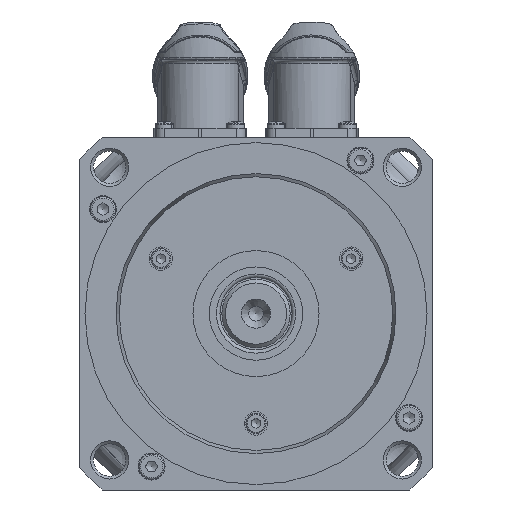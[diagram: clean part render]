
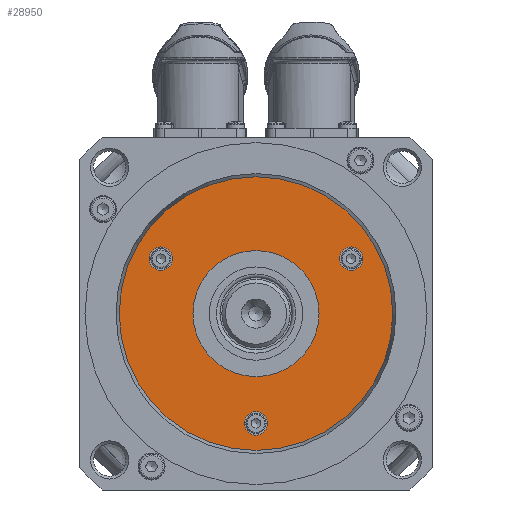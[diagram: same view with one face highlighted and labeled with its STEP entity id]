
A CAD part, left-side view. The second image highlights one B-rep face of the part: STEP entity #28950.
In plain terms, the highlighted planar face has unit normal (-1, 0, 0).
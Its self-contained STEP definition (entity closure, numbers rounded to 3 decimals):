
#1421=FACE_BOUND('',#3986,.T.);
#1422=FACE_BOUND('',#3987,.T.);
#1423=FACE_BOUND('',#3988,.T.);
#1424=FACE_BOUND('',#3989,.T.);
#1674=PLANE('',#31128);
#2260=FACE_OUTER_BOUND('',#3985,.T.);
#3985=EDGE_LOOP('',(#18845,#18846));
#3986=EDGE_LOOP('',(#18847,#18848));
#3987=EDGE_LOOP('',(#18849,#18850));
#3988=EDGE_LOOP('',(#18851,#18852));
#3989=EDGE_LOOP('',(#18853,#18854));
#6023=CIRCLE('',#31058,3.25);
#6024=CIRCLE('',#31059,3.25);
#6028=CIRCLE('',#31066,3.25);
#6029=CIRCLE('',#31067,3.25);
#6033=CIRCLE('',#31074,3.25);
#6034=CIRCLE('',#31075,3.25);
#6059=CIRCLE('',#31129,38.);
#6060=CIRCLE('',#31130,38.);
#6061=CIRCLE('',#31131,17.5);
#6062=CIRCLE('',#31132,17.5);
#10914=VERTEX_POINT('',#43839);
#10915=VERTEX_POINT('',#43840);
#10919=VERTEX_POINT('',#43854);
#10920=VERTEX_POINT('',#43855);
#10924=VERTEX_POINT('',#43869);
#10925=VERTEX_POINT('',#43870);
#10950=VERTEX_POINT('',#43975);
#10951=VERTEX_POINT('',#43976);
#10952=VERTEX_POINT('',#43979);
#10953=VERTEX_POINT('',#43980);
#13866=EDGE_CURVE('',#10914,#10915,#6023,.T.);
#13867=EDGE_CURVE('',#10915,#10914,#6024,.T.);
#13873=EDGE_CURVE('',#10919,#10920,#6028,.T.);
#13874=EDGE_CURVE('',#10920,#10919,#6029,.T.);
#13880=EDGE_CURVE('',#10924,#10925,#6033,.T.);
#13881=EDGE_CURVE('',#10925,#10924,#6034,.T.);
#13931=EDGE_CURVE('',#10950,#10951,#6059,.T.);
#13932=EDGE_CURVE('',#10951,#10950,#6060,.T.);
#13933=EDGE_CURVE('',#10952,#10953,#6061,.T.);
#13934=EDGE_CURVE('',#10953,#10952,#6062,.T.);
#18845=ORIENTED_EDGE('',*,*,#13931,.F.);
#18846=ORIENTED_EDGE('',*,*,#13932,.F.);
#18847=ORIENTED_EDGE('',*,*,#13866,.T.);
#18848=ORIENTED_EDGE('',*,*,#13867,.T.);
#18849=ORIENTED_EDGE('',*,*,#13873,.T.);
#18850=ORIENTED_EDGE('',*,*,#13874,.T.);
#18851=ORIENTED_EDGE('',*,*,#13880,.T.);
#18852=ORIENTED_EDGE('',*,*,#13881,.T.);
#18853=ORIENTED_EDGE('',*,*,#13933,.T.);
#18854=ORIENTED_EDGE('',*,*,#13934,.T.);
#28950=ADVANCED_FACE('',(#2260,#1421,#1422,#1423,#1424),#1674,.T.);
#31058=AXIS2_PLACEMENT_3D('',#43841,#35226,#35227);
#31059=AXIS2_PLACEMENT_3D('',#43842,#35228,#35229);
#31066=AXIS2_PLACEMENT_3D('',#43856,#35244,#35245);
#31067=AXIS2_PLACEMENT_3D('',#43857,#35246,#35247);
#31074=AXIS2_PLACEMENT_3D('',#43871,#35262,#35263);
#31075=AXIS2_PLACEMENT_3D('',#43872,#35264,#35265);
#31128=AXIS2_PLACEMENT_3D('',#43974,#35395,#35396);
#31129=AXIS2_PLACEMENT_3D('',#43977,#35397,#35398);
#31130=AXIS2_PLACEMENT_3D('',#43978,#35399,#35400);
#31131=AXIS2_PLACEMENT_3D('',#43981,#35401,#35402);
#31132=AXIS2_PLACEMENT_3D('',#43982,#35403,#35404);
#35226=DIRECTION('center_axis',(1.,0.,0.));
#35227=DIRECTION('ref_axis',(0.,0.5,0.866));
#35228=DIRECTION('center_axis',(1.,0.,0.));
#35229=DIRECTION('ref_axis',(0.,0.5,0.866));
#35244=DIRECTION('center_axis',(1.,0.,0.));
#35245=DIRECTION('ref_axis',(0.,0.5,-0.866));
#35246=DIRECTION('center_axis',(1.,0.,0.));
#35247=DIRECTION('ref_axis',(0.,0.5,-0.866));
#35262=DIRECTION('center_axis',(1.,0.,0.));
#35263=DIRECTION('ref_axis',(0.,-1.,0.));
#35264=DIRECTION('center_axis',(1.,0.,0.));
#35265=DIRECTION('ref_axis',(0.,-1.,0.));
#35395=DIRECTION('center_axis',(-1.,0.,0.));
#35396=DIRECTION('ref_axis',(0.,-1.,0.));
#35397=DIRECTION('center_axis',(1.,0.,0.));
#35398=DIRECTION('ref_axis',(0.,1.,0.));
#35399=DIRECTION('center_axis',(1.,0.,0.));
#35400=DIRECTION('ref_axis',(0.,1.,0.));
#35401=DIRECTION('center_axis',(1.,0.,0.));
#35402=DIRECTION('ref_axis',(0.,1.,0.));
#35403=DIRECTION('center_axis',(1.,0.,0.));
#35404=DIRECTION('ref_axis',(0.,1.,0.));
#43839=CARTESIAN_POINT('',(-96.75,-24.789,18.065));
#43840=CARTESIAN_POINT('',(-96.75,-28.039,12.435));
#43841=CARTESIAN_POINT('Origin',(-96.75,-26.414,15.25));
#43842=CARTESIAN_POINT('Origin',(-96.75,-26.414,15.25));
#43854=CARTESIAN_POINT('',(-96.75,28.039,12.435));
#43855=CARTESIAN_POINT('',(-96.75,24.789,18.065));
#43856=CARTESIAN_POINT('Origin',(-96.75,26.414,15.25));
#43857=CARTESIAN_POINT('Origin',(-96.75,26.414,15.25));
#43869=CARTESIAN_POINT('',(-96.75,-3.25,-30.5));
#43870=CARTESIAN_POINT('',(-96.75,3.25,-30.5));
#43871=CARTESIAN_POINT('Origin',(-96.75,0.,-30.5));
#43872=CARTESIAN_POINT('Origin',(-96.75,0.,-30.5));
#43974=CARTESIAN_POINT('Origin',(-96.75,0.,38.));
#43975=CARTESIAN_POINT('',(-96.75,0.,38.));
#43976=CARTESIAN_POINT('',(-96.75,0.,-38.));
#43977=CARTESIAN_POINT('Origin',(-96.75,0.,0.));
#43978=CARTESIAN_POINT('Origin',(-96.75,0.,0.));
#43979=CARTESIAN_POINT('',(-96.75,0.,17.5));
#43980=CARTESIAN_POINT('',(-96.75,0.,-17.5));
#43981=CARTESIAN_POINT('Origin',(-96.75,0.,0.));
#43982=CARTESIAN_POINT('Origin',(-96.75,0.,0.));
